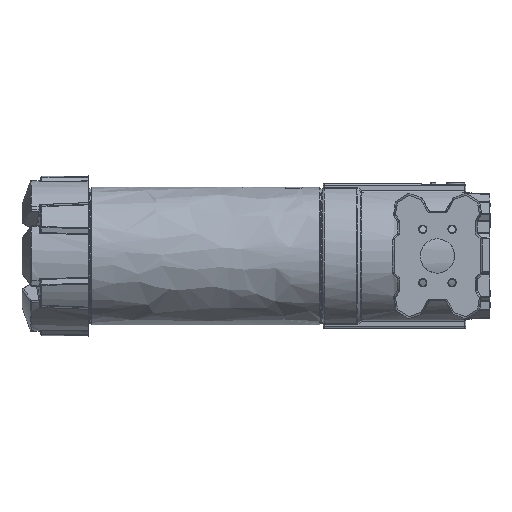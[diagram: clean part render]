
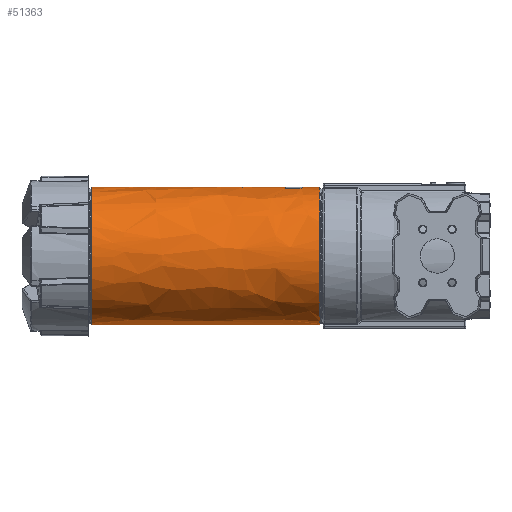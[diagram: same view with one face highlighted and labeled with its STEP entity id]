
A CAD part, left-side view. The second image highlights one B-rep face of the part: STEP entity #51363.
In plain terms, the highlighted free-form (B-spline) face has degree [2, 1] with [7, 2] control points.
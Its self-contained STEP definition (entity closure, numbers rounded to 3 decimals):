
#78=CARTESIAN_POINT('V1405',(-18.224,32.0,
   98.325));
#79=VERTEX_POINT('V1405',#78);
#94=CARTESIAN_POINT('V1407',(-18.224,53.0,
   98.325));
#95=VERTEX_POINT('V1407',#94);
#101=CARTESIAN_POINT('E2516',(-18.224,32.0,
   98.325));
#102=CARTESIAN_POINT('E2516',(-18.224,53.0,
   98.325));
#103=B_SPLINE_CURVE_WITH_KNOTS('E2516',1,(#101,#102),.POLYLINE_FORM.,
   .F.,.U.,(2,2),(5.,57.5),
   .UNSPECIFIED.);
#104=EDGE_CURVE('E2516',#79,#95,#103,.T.);
#134=CARTESIAN_POINT('V1406',(-16.253,55.0,
   98.67));
#135=VERTEX_POINT('V1406',#134);
#141=CARTESIAN_POINT('E2506',(-18.224,53.0,
   98.325));
#142=CARTESIAN_POINT('E2506',(-18.224,53.401,
   98.325));
#143=CARTESIAN_POINT('E2506',(-18.032,54.039,
   98.359));
#144=CARTESIAN_POINT('E2506',(-17.278,54.806,
   98.493));
#145=CARTESIAN_POINT('E2506',(-16.649,55.0,
   98.605));
#146=CARTESIAN_POINT('E2506',(-16.253,55.0,
   98.67));
#147=B_SPLINE_CURVE_WITH_KNOTS('E2506',3,(#141,#142,#143,#144,#145,
   #146),.UNSPECIFIED.,.F.,.U.,(4,1,1,4),(0.0,0.001,
   0.002,0.003),.UNSPECIFIED.);
#148=EDGE_CURVE('E2506',#95,#135,#147,.T.);
#175=CARTESIAN_POINT('V1410',(16.253,55.0,
   98.67));
#176=VERTEX_POINT('V1410',#175);
#182=CARTESIAN_POINT('E2514',(-16.253,55.0,
   98.67));
#183=CARTESIAN_POINT('E2514',(0.,55.0,
   101.348));
#184=CARTESIAN_POINT('E2514',(16.253,55.0,
   98.67));
#192=(BOUNDED_CURVE()B_SPLINE_CURVE(2,(#182,#183,#184),
   .CIRCULAR_ARC.,.F.,.U.)B_SPLINE_CURVE_WITH_KNOTS((3,3),(
   0.081,1.401),.UNSPECIFIED.)CURVE()
   GEOMETRIC_REPRESENTATION_ITEM()RATIONAL_B_SPLINE_CURVE((
   0.998,0.985,0.998))
   REPRESENTATION_ITEM('E2514'));
#193=EDGE_CURVE('E2514',#135,#176,#192,.T.);
#212=CARTESIAN_POINT('V1411',(18.224,53.0,
   98.325));
#213=VERTEX_POINT('V1411',#212);
#214=CARTESIAN_POINT('E2511',(16.253,55.0,
   98.67));
#215=CARTESIAN_POINT('E2511',(16.649,55.0,
   98.605));
#216=CARTESIAN_POINT('E2511',(17.278,54.806,
   98.493));
#217=CARTESIAN_POINT('E2511',(18.032,54.039,
   98.359));
#218=CARTESIAN_POINT('E2511',(18.224,53.401,
   98.325));
#219=CARTESIAN_POINT('E2511',(18.224,53.0,
   98.325));
#220=B_SPLINE_CURVE_WITH_KNOTS('E2511',3,(#214,#215,#216,#217,#218,
   #219),.UNSPECIFIED.,.F.,.U.,(4,1,1,4),(0.0,0.001,
   0.002,0.003),.UNSPECIFIED.);
#221=EDGE_CURVE('E2511',#176,#213,#220,.T.);
#250=CARTESIAN_POINT('V1409',(18.224,32.0,
   98.325));
#251=VERTEX_POINT('V1409',#250);
#257=CARTESIAN_POINT('E2517',(18.224,53.0,
   98.325));
#258=CARTESIAN_POINT('E2517',(18.224,32.0,
   98.325));
#259=B_SPLINE_CURVE_WITH_KNOTS('E2517',1,(#257,#258),.POLYLINE_FORM.,
   .F.,.U.,(2,2),(5.,57.5),
   .UNSPECIFIED.);
#260=EDGE_CURVE('E2517',#213,#251,#259,.T.);
#343=CARTESIAN_POINT('V1408',(16.253,30.0,
   98.67));
#344=VERTEX_POINT('V1408',#343);
#350=CARTESIAN_POINT('E2509',(18.224,32.0,
   98.325));
#351=CARTESIAN_POINT('E2509',(18.224,31.599,
   98.325));
#352=CARTESIAN_POINT('E2509',(18.032,30.961,
   98.359));
#353=CARTESIAN_POINT('E2509',(17.278,30.194,
   98.493));
#354=CARTESIAN_POINT('E2509',(16.649,30.0,
   98.605));
#355=CARTESIAN_POINT('E2509',(16.253,30.0,
   98.67));
#356=B_SPLINE_CURVE_WITH_KNOTS('E2509',3,(#350,#351,#352,#353,#354,
   #355),.UNSPECIFIED.,.F.,.U.,(4,1,1,4),(0.0,0.001,
   0.002,0.003),.UNSPECIFIED.);
#357=EDGE_CURVE('E2509',#251,#344,#356,.T.);
#368=CARTESIAN_POINT('V1404',(-16.253,30.0,
   98.67));
#369=VERTEX_POINT('V1404',#368);
#375=CARTESIAN_POINT('E2515',(16.253,30.0,
   98.67));
#376=CARTESIAN_POINT('E2515',(0.,30.0,
   101.348));
#377=CARTESIAN_POINT('E2515',(-16.253,30.0,
   98.67));
#385=(BOUNDED_CURVE()B_SPLINE_CURVE(2,(#375,#376,#377),
   .CIRCULAR_ARC.,.F.,.U.)B_SPLINE_CURVE_WITH_KNOTS((3,3),(
   0.081,1.401),.UNSPECIFIED.)CURVE()
   GEOMETRIC_REPRESENTATION_ITEM()RATIONAL_B_SPLINE_CURVE((
   0.998,0.985,0.998))
   REPRESENTATION_ITEM('E2515'));
#386=EDGE_CURVE('E2515',#344,#369,#385,.T.);
#407=CARTESIAN_POINT('E2502',(-16.253,30.0,
   98.67));
#408=CARTESIAN_POINT('E2502',(-16.649,30.0,
   98.605));
#409=CARTESIAN_POINT('E2502',(-17.278,30.194,
   98.493));
#410=CARTESIAN_POINT('E2502',(-18.032,30.961,
   98.359));
#411=CARTESIAN_POINT('E2502',(-18.224,31.599,
   98.325));
#412=CARTESIAN_POINT('E2502',(-18.224,32.0,
   98.325));
#413=B_SPLINE_CURVE_WITH_KNOTS('E2502',3,(#407,#408,#409,#410,#411,
   #412),.UNSPECIFIED.,.F.,.U.,(4,1,1,4),(0.0,0.001,
   0.002,0.003),.UNSPECIFIED.);
#414=EDGE_CURVE('E2502',#369,#79,#413,.T.);
#21309=CARTESIAN_POINT('V564',(0.,336.5,
   -100.0));
#21310=VERTEX_POINT('V564',#21309);
#21311=CARTESIAN_POINT('E1044',(0.,336.5,
   -100.0));
#21312=CARTESIAN_POINT('E1044',(173.205,
   336.5,-100.0));
#21313=CARTESIAN_POINT('E1044',(86.603,
   336.5,50.0));
#21314=CARTESIAN_POINT('E1044',(0.,336.5,
   200.0));
#21315=CARTESIAN_POINT('E1044',(-86.603,
   336.5,50.0));
#21316=CARTESIAN_POINT('E1044',(-173.205,
   336.5,-100.0));
#21317=CARTESIAN_POINT('E1044',(0.,336.5,
   -100.0));
#21325=(BOUNDED_CURVE()B_SPLINE_CURVE(2,(#21311,#21312,#21313,
   #21314,#21315,#21316,#21317),.CIRCULAR_ARC.,.T.,.U.)
   B_SPLINE_CURVE_WITH_KNOTS((3,2,2,3),(0.0,2.09,
   4.18,6.27),.UNSPECIFIED.)CURVE()
   GEOMETRIC_REPRESENTATION_ITEM()RATIONAL_B_SPLINE_CURVE((1.0,
   0.5,1.0,0.5,1.0,0.5,1.0)
   )REPRESENTATION_ITEM('E1044'));
#21326=EDGE_CURVE('E1044',#21310,#21310,#21325,.T.);
#51296=CARTESIAN_POINT('V559',(0.,5.0,-100.0));
#51297=VERTEX_POINT('V559',#51296);
#51298=CARTESIAN_POINT('E1036',(0.,5.0,-100.0));
#51299=CARTESIAN_POINT('E1036',(-173.205,
   5.,-100.0));
#51300=CARTESIAN_POINT('E1036',(-86.603,5.0,50.0));
#51301=CARTESIAN_POINT('E1036',(0.,5.,
   200.0));
#51302=CARTESIAN_POINT('E1036',(86.603,5.0,50.0));
#51303=CARTESIAN_POINT('E1036',(173.205,
   5.,-100.0));
#51304=CARTESIAN_POINT('E1036',(0.,5.0,-100.0));
#51312=(BOUNDED_CURVE()B_SPLINE_CURVE(2,(#51298,#51299,#51300,
   #51301,#51302,#51303,#51304),.CIRCULAR_ARC.,.T.,.U.)
   B_SPLINE_CURVE_WITH_KNOTS((3,2,2,3),(0.0,2.09,
   4.18,6.27),.UNSPECIFIED.)CURVE()
   GEOMETRIC_REPRESENTATION_ITEM()RATIONAL_B_SPLINE_CURVE((1.0,
   0.5,1.0,0.5,1.0,0.5,1.0)
   )REPRESENTATION_ITEM('E1036'));
#51313=EDGE_CURVE('E1036',#51297,#51297,#51312,.T.);
#51321=CARTESIAN_POINT('F1063',(0.,4.9,
   -100.0));
#51322=CARTESIAN_POINT('F1063',(-173.205,
   4.9,-100.0));
#51323=CARTESIAN_POINT('F1063',(-86.603,
   4.9,50.0));
#51324=CARTESIAN_POINT('F1063',(0.,4.9,
   200.0));
#51325=CARTESIAN_POINT('F1063',(86.603,4.9,
   50.0));
#51326=CARTESIAN_POINT('F1063',(173.205,
   4.9,-100.0));
#51327=CARTESIAN_POINT('F1063',(0.,4.9,
   -100.0));
#51328=CARTESIAN_POINT('F1063',(0.,336.6,
   -100.0));
#51329=CARTESIAN_POINT('F1063',(-173.205,
   336.6,-100.0));
#51330=CARTESIAN_POINT('F1063',(-86.603,
   336.6,50.0));
#51331=CARTESIAN_POINT('F1063',(0.,336.6,
   200.0));
#51332=CARTESIAN_POINT('F1063',(86.603,
   336.6,50.0));
#51333=CARTESIAN_POINT('F1063',(173.205,
   336.6,-100.0));
#51334=CARTESIAN_POINT('F1063',(0.,336.6,
   -100.0));
#51342=(BOUNDED_SURFACE()B_SPLINE_SURFACE(2,1,((#51321,#51328),(
   #51322,#51329),(#51323,#51330),(#51324,#51331),(#51325,
   #51332),(#51326,#51333),(#51327,#51334)),.CYLINDRICAL_SURF.,
   .T.,.F.,.U.)B_SPLINE_SURFACE_WITH_KNOTS((3,2,2,3),(2,2),(0.0,
   1.044,2.089,3.133),(0.0,1.0),
   .UNSPECIFIED.)GEOMETRIC_REPRESENTATION_ITEM()
   RATIONAL_B_SPLINE_SURFACE(((1.0,1.0),(0.5,
   0.5),(1.0,1.0),(0.5,
   0.5),(1.0,1.0),(0.5,
   0.5),(1.0,1.0)))REPRESENTATION_ITEM('F1063')
   SURFACE());
#51343=ORIENTED_EDGE('F445',*,*,#51313,.T.);
#51344=CARTESIAN_POINT('E2518',(0.,5.0,-100.0));
#51345=CARTESIAN_POINT('E2518',(0.,336.5,
   -100.0));
#51346=B_SPLINE_CURVE_WITH_KNOTS('E2518',1,(#51344,#51345),
   .POLYLINE_FORM.,.F.,.U.,(2,2),(0.,
   1.),.UNSPECIFIED.);
#51347=EDGE_CURVE('E2518',#51297,#21310,#51346,.T.);
#51348=ORIENTED_EDGE('E2518',*,*,#51347,.T.);
#51349=ORIENTED_EDGE('F449',*,*,#21326,.T.);
#51350=ORIENTED_EDGE('E2518',*,*,#51347,.F.);
#51351=EDGE_LOOP('F1063',(#51343,#51348,#51349,#51350));
#51352=FACE_OUTER_BOUND('F1063',#51351,.T.);
#51353=ORIENTED_EDGE('E2502',*,*,#414,.T.);
#51354=ORIENTED_EDGE('F1061',*,*,#104,.T.);
#51355=ORIENTED_EDGE('E2506',*,*,#148,.T.);
#51356=ORIENTED_EDGE('F1059',*,*,#193,.T.);
#51357=ORIENTED_EDGE('E2511',*,*,#221,.T.);
#51358=ORIENTED_EDGE('E2517',*,*,#260,.T.);
#51359=ORIENTED_EDGE('E2509',*,*,#357,.T.);
#51360=ORIENTED_EDGE('E2515',*,*,#386,.T.);
#51361=EDGE_LOOP('F1063',(#51353,#51354,#51355,#51356,#51357,#51358,
   #51359,#51360));
#51362=FACE_BOUND('F1063',#51361,.T.);
#51363=ADVANCED_FACE('F1063',(#51352,#51362),#51342,.T.);
